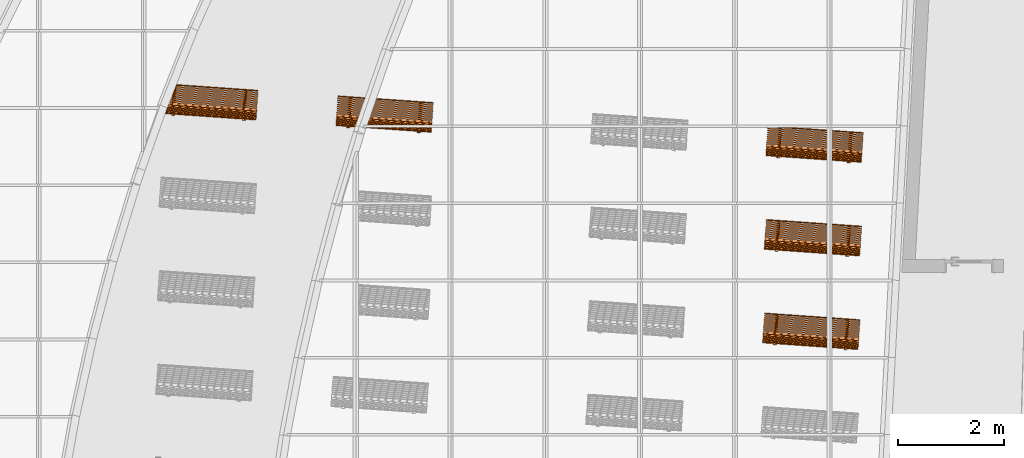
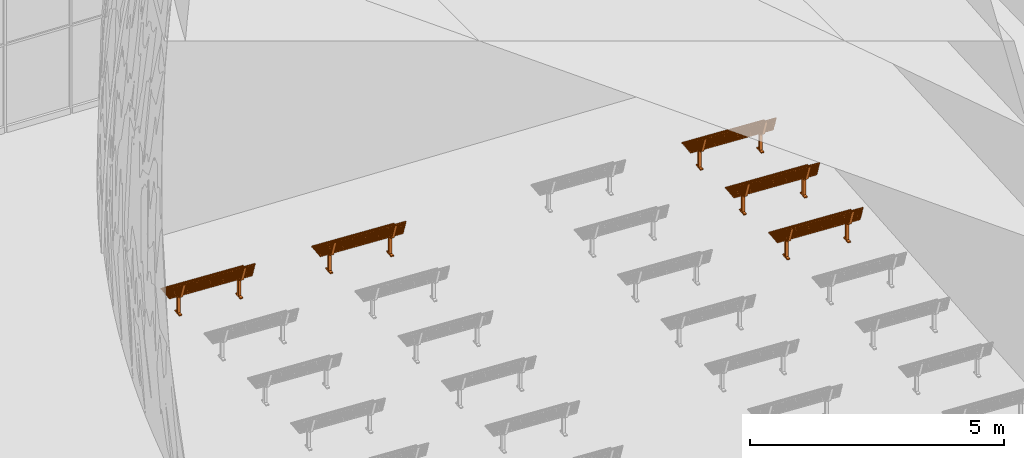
# One storey, part 80 of 82: 5 proxies.
"""IFC2X3 building model written with IfcOpenShell, lengths in millimetres."""

from ifc_helpers import new_model, entity, si_unit, converted_unit, derived_unit, direction, frame, frame_2d, origin, origin_2d_with_axis, place, context, subcontext, project, spatial, polyline, circle_curve, parameter, trimmed, segment, composite_curve, rectangle, outline, extrude, source, transform, mapped, material, material_list, element, save


model = new_model("IFC2X3")

# Units and contexts
model_context = context("Model", 3, precision=0.01, world=origin(), true_north=direction((6.12303176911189e-17, 1.0)))
body_context = subcontext(model_context, "Body", "Model", "MODEL_VIEW")
ifc_project = project(units=[si_unit("LENGTHUNIT", "METRE", prefix="MILLI"), si_unit("AREAUNIT", "SQUARE_METRE"), si_unit("VOLUMEUNIT", "CUBIC_METRE"), converted_unit("PLANEANGLEUNIT", "DEGREE", entity("IfcRatioMeasure", 0.0174532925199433), si_unit("PLANEANGLEUNIT", "RADIAN"), dimensions=[0, 0, 0, 0, 0, 0, 0]), si_unit("MASSUNIT", "GRAM", prefix="KILO"), derived_unit("MASSDENSITYUNIT", [(si_unit("MASSUNIT", "GRAM", prefix="KILO"), 1), (si_unit("LENGTHUNIT", "METRE"), -3)]), si_unit("TIMEUNIT", "SECOND"), si_unit("FREQUENCYUNIT", "HERTZ"), si_unit("THERMODYNAMICTEMPERATUREUNIT", "DEGREE_CELSIUS"), derived_unit("THERMALTRANSMITTANCEUNIT", [(si_unit("MASSUNIT", "GRAM", prefix="KILO"), 1), (si_unit("THERMODYNAMICTEMPERATUREUNIT", "KELVIN"), -1), (si_unit("TIMEUNIT", "SECOND"), -3)]), derived_unit("VOLUMETRICFLOWRATEUNIT", [(si_unit("LENGTHUNIT", "METRE"), 3), (si_unit("TIMEUNIT", "SECOND"), -1)]), si_unit("ELECTRICCURRENTUNIT", "AMPERE"), si_unit("ELECTRICVOLTAGEUNIT", "VOLT"), si_unit("POWERUNIT", "WATT"), si_unit("FORCEUNIT", "NEWTON", prefix="KILO"), si_unit("ILLUMINANCEUNIT", "LUX"), si_unit("LUMINOUSFLUXUNIT", "LUMEN"), si_unit("LUMINOUSINTENSITYUNIT", "CANDELA"), derived_unit("USERDEFINED", [(si_unit("MASSUNIT", "GRAM", prefix="KILO"), -1), (si_unit("LENGTHUNIT", "METRE"), -2), (si_unit("TIMEUNIT", "SECOND"), 3), (si_unit("LUMINOUSFLUXUNIT", "LUMEN"), 1)]), derived_unit("LINEARVELOCITYUNIT", [(si_unit("LENGTHUNIT", "METRE"), 1), (si_unit("TIMEUNIT", "SECOND"), -1)]), si_unit("PRESSUREUNIT", "PASCAL"), derived_unit("USERDEFINED", [(si_unit("LENGTHUNIT", "METRE"), -2), (si_unit("MASSUNIT", "GRAM", prefix="KILO"), 1), (si_unit("TIMEUNIT", "SECOND"), -2)])], contexts=[model_context])

# Site, building, storey
site_placement = place(None, origin())
site = spatial("IfcSite", under=ifc_project, at=site_placement, Name="表面", CompositionType="ELEMENT")
building_placement = place(site_placement, origin())
building = spatial("IfcBuilding", under=site, at=building_placement, CompositionType="ELEMENT")
storey_placement = place(building_placement, origin())
storey = spatial("IfcBuildingStorey", under=building, at=storey_placement, Name="1F", CompositionType="ELEMENT", Elevation=0.0)

# Proxies
ifc_material_1 = material(Name="木质 - 柚木")
ifc_material_2 = material(Name="金属 - 油漆面层 - 深灰色，粗面")
ifc_material_list_1 = material_list([ifc_material_1, ifc_material_2])
shared_shape_1 = source(origin(), body_context, "Body", "SweptSolid", [
    extrude(outline(composite_curve([segment(polyline([(0.797293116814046, -5.21607142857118), (12.0635827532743, -5.21607142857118)]), True, "CONTINUOUS"), segment(polyline([(12.0635827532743, -5.21607142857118), (12.0635827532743, 20.1839285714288)]), True, "CONTINUOUS"), segment(polyline([(12.0635827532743, 20.1839285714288), (0.951082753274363, 20.1839285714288)]), True, "CONTINUOUS"), segment(trimmed(circle_curve(frame_2d((0.951082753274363, 5.89642857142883), x_axis=(1.0, 0.0)), 14.2875), [parameter(89.9999999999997)], [parameter(179.999999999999)], True, "PARAMETER"), True, "CONTINUOUS"), segment(polyline([(-13.3364172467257, 5.89642857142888), (-13.3364172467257, -17.9160714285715)]), True, "CONTINUOUS"), segment(polyline([(-13.3364172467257, -17.9160714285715), (0.797293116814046, -17.9160714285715)]), True, "CONTINUOUS"), segment(polyline([(0.797293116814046, -17.9160714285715), (0.797293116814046, -5.21607142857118)]), True, "CONTINUOUS")], self_intersect=False)), frame((-900.0, -305.597293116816, 462.416071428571), z_axis=(1.0, 0.0, 0.0), x_axis=(0.0, 1.0, 0.0)), (0.0, 0.0, 1.0), 1800.0),
    extrude(outline(composite_curve([segment(polyline([(-12.6999999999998, -17.78), (0.0, -17.78)]), True, "CONTINUOUS"), segment(trimmed(circle_curve(frame_2d((0.0, -5.07999999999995), x_axis=(-0.939692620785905, -0.342020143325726)), 12.7), [parameter(69.9999999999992)], [parameter(160.0)], True, "PARAMETER"), True, "CONTINUOUS"), segment(polyline([(12.7, -5.07999999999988), (12.6999999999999, 20.3200000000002)]), True, "CONTINUOUS"), segment(polyline([(12.6999999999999, 20.3200000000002), (-12.7000000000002, 20.3200000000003)]), True, "CONTINUOUS"), segment(polyline([(-12.7000000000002, 20.3200000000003), (-12.6999999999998, -17.78)]), True, "CONTINUOUS")], self_intersect=False)), frame((-900.0, 231.374580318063, 850.885044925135), z_axis=(1.0, 0.0, 0.0), x_axis=(0.0, -0.939692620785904, 0.342020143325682)), (0.0, 0.0, 1.0), 1800.0),
    extrude(rectangle(XDim=1800.0, YDim=25.4, at=frame_2d((0.0, 1.68753899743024e-14), x_axis=(1.0, 0.0))), frame((0.0, -268.133710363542, 457.2), z_axis=(0.0, 0.0, 1.0), x_axis=(-1.0, 0.0, 0.0)), (0.0, 0.0, 1.0), 25.4),
    extrude(rectangle(XDim=1800.0, YDim=25.4, at=frame_2d((0.0, 1.68753899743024e-14), x_axis=(1.0, 0.0))), frame((0.0, -230.033710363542, 457.2), z_axis=(0.0, 0.0, 1.0), x_axis=(-1.0, 0.0, 0.0)), (0.0, 0.0, 1.0), 25.4),
    extrude(rectangle(XDim=1800.0, YDim=25.4, at=frame_2d((0.0, 1.68753899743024e-14), x_axis=(1.0, 0.0))), frame((0.0, -191.933710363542, 457.2), z_axis=(0.0, 0.0, 1.0), x_axis=(-1.0, 0.0, 0.0)), (0.0, 0.0, 1.0), 25.4),
    extrude(rectangle(XDim=1800.0, YDim=25.4, at=frame_2d((0.0, 1.68753899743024e-14), x_axis=(1.0, 0.0))), frame((0.0, -153.833710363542, 457.2), z_axis=(0.0, 0.0, 1.0), x_axis=(-1.0, 0.0, 0.0)), (0.0, 0.0, 1.0), 25.4),
    extrude(rectangle(XDim=1800.0, YDim=25.4, at=frame_2d((0.0, 1.68753899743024e-14), x_axis=(1.0, 0.0))), frame((0.0, -115.733710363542, 457.2), z_axis=(0.0, 0.0, 1.0), x_axis=(-1.0, 0.0, 0.0)), (0.0, 0.0, 1.0), 25.4),
    extrude(rectangle(XDim=1800.0, YDim=25.4, at=origin_2d_with_axis()), frame((0.0, -77.6337103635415, 457.2), z_axis=(0.0, 0.0, 1.0), x_axis=(-1.0, 0.0, 0.0)), (0.0, 0.0, 1.0), 25.4),
    extrude(rectangle(XDim=1800.0, YDim=25.4, at=origin_2d_with_axis()), frame((0.0, -39.5337103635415, 457.2), z_axis=(0.0, 0.0, 1.0), x_axis=(-1.0, 0.0, 0.0)), (0.0, 0.0, 1.0), 25.4),
    extrude(rectangle(XDim=1800.0, YDim=25.4, at=origin_2d_with_axis()), frame((0.0, -1.43371036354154, 457.2), z_axis=(0.0, 0.0, 1.0), x_axis=(-1.0, 0.0, 0.0)), (0.0, 0.0, 1.0), 25.4),
    extrude(rectangle(XDim=1800.0, YDim=25.4, at=origin_2d_with_axis()), frame((0.0, 36.6662896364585, 457.2), z_axis=(0.0, 0.0, 1.0), x_axis=(-1.0, 0.0, 0.0)), (0.0, 0.0, 1.0), 25.4),
    extrude(rectangle(XDim=25.4, YDim=25.4, at=frame_2d((3.10862446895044e-14, -1.33226762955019e-13), x_axis=(0.0, 1.0))), frame((-900.0, 137.551614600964, 593.108565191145), z_axis=(1.0, 0.0, 0.0), x_axis=(0.0, -0.939692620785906, 0.342020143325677)), (0.0, 0.0, 1.0), 1800.0),
    extrude(rectangle(XDim=25.4, YDim=25.4000000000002, at=frame_2d((-8.61533067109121e-14, 4.08562073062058e-14), x_axis=(0.0, 1.0))), frame((-900.0, 150.582582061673, 628.910854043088), z_axis=(1.0, 0.0, 0.0), x_axis=(0.0, -0.939692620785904, 0.342020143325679)), (0.0, 0.0, 1.0), 1800.0),
    extrude(rectangle(XDim=25.4000000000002, YDim=25.4, at=frame_2d((-3.19744231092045e-14, -1.15463194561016e-14), x_axis=(0.0, 1.0))), frame((-900.0, 111.489679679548, 521.503987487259), z_axis=(1.0, 0.0, 0.0), x_axis=(0.0, -0.939692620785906, 0.342020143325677)), (0.0, 0.0, 1.0), 1800.0),
    extrude(rectangle(XDim=25.4, YDim=25.3999999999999, at=frame_2d((0.0, 0.0), x_axis=(0.0, 1.0))), frame((-900.0, 124.520647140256, 557.306276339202), z_axis=(1.0, 0.0, 0.0), x_axis=(0.0, -0.939692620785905, 0.342020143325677)), (0.0, 0.0, 1.0), 1800.0),
    extrude(rectangle(XDim=25.3999999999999, YDim=25.4, at=frame_2d((-3.10862446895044e-14, -1.06581410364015e-14), x_axis=(0.0, 1.0))), frame((-900.0, 189.675484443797, 736.317720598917), z_axis=(1.0, 0.0, 0.0), x_axis=(0.0, -0.939692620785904, 0.342020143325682)), (0.0, 0.0, 1.0), 1800.0),
    extrude(rectangle(XDim=25.3999999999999, YDim=25.4000000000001, at=frame_2d((-3.10862446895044e-14, -1.33226762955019e-14), x_axis=(0.0, 1.0))), frame((-900.0, 202.706451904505, 772.12000945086), z_axis=(1.0, 0.0, 0.0), x_axis=(0.0, -0.939692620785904, 0.34202014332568)), (0.0, 0.0, 1.0), 1800.0),
    extrude(rectangle(XDim=25.4, YDim=25.3999999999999, at=frame_2d((0.0, 0.0), x_axis=(0.0, 1.0))), frame((-900.0, 163.613549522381, 664.713142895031), z_axis=(1.0, 0.0, 0.0), x_axis=(0.0, -0.939692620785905, 0.342020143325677)), (0.0, 0.0, 1.0), 1800.0),
    extrude(rectangle(XDim=25.4, YDim=25.4, at=frame_2d((-7.99360577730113e-15, -7.63833440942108e-14), x_axis=(0.0, 1.0))), frame((-900.0, 176.644516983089, 700.515431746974), z_axis=(1.0, 0.0, 0.0), x_axis=(0.0, -0.939692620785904, 0.342020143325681)), (0.0, 0.0, 1.0), 1800.0),
    extrude(rectangle(XDim=25.4, YDim=25.3999999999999, at=frame_2d((3.19744231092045e-14, 1.06581410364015e-14), x_axis=(0.0, 1.0))), frame((-900.0, 215.737419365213, 807.922298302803), z_axis=(1.0, 0.0, 0.0), x_axis=(0.0, -0.939692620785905, 0.342020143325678)), (0.0, 0.0, 1.0), 1800.0),
    extrude(rectangle(XDim=25.4000000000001, YDim=25.3999999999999, at=frame_2d((-1.33226762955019e-14, -9.76996261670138e-15), x_axis=(0.0, 1.0))), frame((-900.0, 96.4732295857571, 493.845543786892), z_axis=(1.0, 0.0, 0.0), x_axis=(0.0, -0.81915204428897, 0.573576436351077)), (0.0, 0.0, 1.0), 1800.0),
    extrude(rectangle(XDim=25.4, YDim=25.4000000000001, at=frame_2d((4.44089209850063e-15, 1.68753899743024e-14), x_axis=(1.0, 0.0))), frame((-900.0, 68.061957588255, 472.784050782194), z_axis=(1.0, 0.0, 0.0), x_axis=(0.0, -0.258819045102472, 0.965925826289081)), (0.0, 0.0, 1.0), 1800.0),
    extrude(outline(composite_curve([segment(polyline([(344.97581690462, -133.451056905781), (370.37581690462, -133.451056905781)]), True, "CONTINUOUS"), segment(polyline([(370.37581690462, -133.451056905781), (370.37581690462, 69.7489430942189)]), True, "CONTINUOUS"), segment(polyline([(370.37581690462, 69.7489430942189), (344.97581690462, 69.7489430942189)]), True, "CONTINUOUS"), segment(polyline([(344.97581690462, 69.7489430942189), (344.97581690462, -6.45105690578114)]), True, "CONTINUOUS"), segment(polyline([(344.97581690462, -6.45105690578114), (-61.4241830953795, -6.45105690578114)]), True, "CONTINUOUS"), segment(polyline([(-61.4241830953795, -6.45105690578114), (-61.4241830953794, 25.2857644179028)]), True, "CONTINUOUS"), segment(trimmed(circle_curve(frame_2d((-150.324183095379, 25.2857644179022), x_axis=(0.0, 1.0)), 88.8999999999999), [parameter(270.0)], [parameter(340.0)], True, "PARAMETER"), True, "CONTINUOUS"), segment(polyline([(-119.918592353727, 108.824438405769), (-483.896145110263, 241.301433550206)]), True, "CONTINUOUS"), segment(polyline([(-483.896145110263, 241.301433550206), (-488.239800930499, 229.367337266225)]), True, "CONTINUOUS"), segment(trimmed(circle_curve(frame_2d((-476.305704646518, 225.023681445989), x_axis=(0.0, 1.0)), 12.7), [parameter(69.9999999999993)], [parameter(160.0)], True, "PARAMETER"), True, "CONTINUOUS"), segment(polyline([(-480.649360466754, 213.089585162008), (-128.6059039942, 84.9562458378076)]), True, "CONTINUOUS"), segment(trimmed(circle_curve(frame_2d((-150.32418309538, 25.2857644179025), x_axis=(0.0, 1.0)), 63.5), [parameter(270.0)], [parameter(340.0)], True, "PARAMETER"), False, "CONTINUOUS"), segment(polyline([(-86.8241830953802, 25.2857644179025), (-86.8241830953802, -336.651056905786)]), True, "CONTINUOUS"), segment(polyline([(-86.8241830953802, -336.651056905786), (-61.4241830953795, -336.651056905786)]), True, "CONTINUOUS"), segment(polyline([(-61.4241830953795, -336.651056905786), (-61.4241830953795, -57.2510569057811)]), True, "CONTINUOUS"), segment(polyline([(-61.4241830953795, -57.2510569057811), (344.97581690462, -57.2510569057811)]), True, "CONTINUOUS"), segment(polyline([(344.97581690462, -57.2510569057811), (344.97581690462, -133.451056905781)]), True, "CONTINUOUS")], self_intersect=False)), frame((633.973659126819, 31.8510569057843, 370.37581690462), z_axis=(1.0, 0.0, 0.0), x_axis=(0.0, 0.0, -1.0)), (0.0, 0.0, 1.0), 62.8263408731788),
    extrude(outline(composite_curve([segment(polyline([(344.97581690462, -133.451056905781), (370.37581690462, -133.451056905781)]), True, "CONTINUOUS"), segment(polyline([(370.37581690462, -133.451056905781), (370.37581690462, 69.7489430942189)]), True, "CONTINUOUS"), segment(polyline([(370.37581690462, 69.7489430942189), (344.97581690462, 69.7489430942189)]), True, "CONTINUOUS"), segment(polyline([(344.97581690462, 69.7489430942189), (344.97581690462, -6.45105690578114)]), True, "CONTINUOUS"), segment(polyline([(344.97581690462, -6.45105690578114), (-61.4241830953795, -6.45105690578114)]), True, "CONTINUOUS"), segment(polyline([(-61.4241830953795, -6.45105690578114), (-61.4241830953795, 25.2857644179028)]), True, "CONTINUOUS"), segment(trimmed(circle_curve(frame_2d((-150.32418309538, 25.2857644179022), x_axis=(0.0, 1.0)), 88.9), [parameter(270.0)], [parameter(340.0)], True, "PARAMETER"), True, "CONTINUOUS"), segment(polyline([(-119.918592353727, 108.824438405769), (-483.896145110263, 241.301433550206)]), True, "CONTINUOUS"), segment(polyline([(-483.896145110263, 241.301433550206), (-488.239800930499, 229.367337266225)]), True, "CONTINUOUS"), segment(trimmed(circle_curve(frame_2d((-476.305704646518, 225.023681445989), x_axis=(0.0, 1.0)), 12.7), [parameter(69.9999999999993)], [parameter(160.0)], True, "PARAMETER"), True, "CONTINUOUS"), segment(polyline([(-480.649360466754, 213.089585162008), (-128.6059039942, 84.9562458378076)]), True, "CONTINUOUS"), segment(trimmed(circle_curve(frame_2d((-150.32418309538, 25.2857644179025), x_axis=(0.0, 1.0)), 63.5), [parameter(270.0)], [parameter(340.0)], True, "PARAMETER"), False, "CONTINUOUS"), segment(polyline([(-86.8241830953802, 25.2857644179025), (-86.8241830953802, -336.651056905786)]), True, "CONTINUOUS"), segment(polyline([(-86.8241830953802, -336.651056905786), (-61.4241830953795, -336.651056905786)]), True, "CONTINUOUS"), segment(polyline([(-61.4241830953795, -336.651056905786), (-61.4241830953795, -57.2510569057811)]), True, "CONTINUOUS"), segment(polyline([(-61.4241830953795, -57.2510569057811), (344.97581690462, -57.2510569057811)]), True, "CONTINUOUS"), segment(polyline([(344.97581690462, -57.2510569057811), (344.97581690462, -133.451056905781)]), True, "CONTINUOUS")], self_intersect=False)), frame((-696.799999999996, 31.8510569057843, 370.37581690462), z_axis=(1.0, 0.0, 0.0), x_axis=(0.0, 0.0, -1.0)), (0.0, 0.0, 1.0), 63.8916859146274),
])
proxy_1_placement = place(storey_placement, frame((-20204.3999341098, -5061.50373373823, 0.0), z_axis=(0.0, 0.0, 1.0), x_axis=(-0.997564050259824, 0.0697564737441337, 0.0)))
element("IfcBuildingElementProxy", 1, at=proxy_1_placement, inside=storey, material=ifc_material_list_1, Name="长椅:1800 mm", ObjectType="1800 mm", context=body_context, shape_type="MappedRepresentation", body=[
    mapped(shared_shape_1, transform((0.0, 0.0, 0.0), scale=1.0)),
])
ifc_material_list_2 = material_list([ifc_material_1, ifc_material_2])
proxy_2_placement = place(storey_placement, frame((-20235.0888991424, -6819.6733629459, 0.0), z_axis=(0.0, 0.0, 1.0), x_axis=(-0.997564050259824, 0.0697564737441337, 0.0)))
element("IfcBuildingElementProxy", 2, at=proxy_2_placement, inside=storey, material=ifc_material_list_2, Name="长椅:1800 mm", ObjectType="1800 mm", context=body_context, shape_type="MappedRepresentation", body=[
    mapped(shared_shape_1, transform((0.0, 0.0, 0.0), scale=1.0)),
])
ifc_material_list_3 = material_list([ifc_material_1, ifc_material_2])
proxy_3_placement = place(storey_placement, frame((-20265.7778641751, -8577.84299215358, 0.0), z_axis=(0.0, 0.0, 1.0), x_axis=(-0.997564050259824, 0.0697564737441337, 0.0)))
element("IfcBuildingElementProxy", 3, at=proxy_3_placement, inside=storey, material=ifc_material_list_3, Name="长椅:1800 mm", ObjectType="1800 mm", context=body_context, shape_type="MappedRepresentation", body=[
    mapped(shared_shape_1, transform((0.0, 0.0, 0.0), scale=1.0)),
])
ifc_material_list_4 = material_list([ifc_material_1, ifc_material_2])
shared_shape_2 = source(origin(), body_context, "Body", "SweptSolid", [
    extrude(outline(composite_curve([segment(polyline([(5.21607142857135, -0.797293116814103), (17.9160714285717, -0.797293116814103)]), True, "CONTINUOUS"), segment(polyline([(17.9160714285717, -0.797293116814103), (17.9160714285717, 13.3364172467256)]), True, "CONTINUOUS"), segment(polyline([(17.9160714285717, 13.3364172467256), (-5.89642857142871, 13.3364172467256)]), True, "CONTINUOUS"), segment(trimmed(circle_curve(frame_2d((-5.89642857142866, -0.95108275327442), x_axis=(0.0, -1.0)), 14.2875), [parameter(180.000000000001)], [parameter(270.0)], True, "PARAMETER"), True, "CONTINUOUS"), segment(polyline([(-20.1839285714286, -0.95108275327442), (-20.1839285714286, -12.0635827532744)]), True, "CONTINUOUS"), segment(polyline([(-20.1839285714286, -12.0635827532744), (5.21607142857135, -12.0635827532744)]), True, "CONTINUOUS"), segment(polyline([(5.21607142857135, -12.0635827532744), (5.21607142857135, -0.797293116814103)]), True, "CONTINUOUS")], self_intersect=False)), frame((-900.0, 305.597293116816, 462.416071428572), z_axis=(1.0, 0.0, 0.0), x_axis=(0.0, 0.0, -1.0)), (0.0, 0.0, 1.0), 1800.0),
    extrude(outline(composite_curve([segment(polyline([(-17.7799999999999, -12.6999999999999), (20.3200000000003, -12.6999999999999)]), True, "CONTINUOUS"), segment(polyline([(20.3200000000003, -12.6999999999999), (20.3199999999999, 12.7000000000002)]), True, "CONTINUOUS"), segment(polyline([(20.3199999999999, 12.7000000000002), (-5.08000000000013, 12.7)]), True, "CONTINUOUS"), segment(trimmed(circle_curve(frame_2d((-5.08000000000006, 0.0), x_axis=(-0.342020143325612, -0.939692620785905)), 12.7), [parameter(200.0)], [parameter(290.000000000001)], True, "PARAMETER"), True, "CONTINUOUS"), segment(polyline([(-17.7800000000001, 0.0), (-17.7799999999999, -12.6999999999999)]), True, "CONTINUOUS")], self_intersect=False)), frame((-900.0, -231.374580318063, 850.885044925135), z_axis=(1.0, 0.0, 0.0), x_axis=(0.0, 0.342020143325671, -0.939692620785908)), (0.0, 0.0, 1.0), 1800.0),
    extrude(rectangle(XDim=25.4, YDim=1800.0, at=frame_2d((-1.68753899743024e-14, 0.0), x_axis=(1.0, 0.0))), frame((0.0, 268.133710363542, 457.2), z_axis=(0.0, 0.0, 1.0), x_axis=(0.0, 1.0, 0.0)), (0.0, 0.0, 1.0), 25.4),
    extrude(rectangle(XDim=25.4, YDim=1800.0, at=frame_2d((-1.68753899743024e-14, 0.0), x_axis=(1.0, 0.0))), frame((0.0, 230.033710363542, 457.2), z_axis=(0.0, 0.0, 1.0), x_axis=(0.0, 1.0, 0.0)), (0.0, 0.0, 1.0), 25.4),
    extrude(rectangle(XDim=25.4, YDim=1800.0, at=frame_2d((-1.68753899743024e-14, 0.0), x_axis=(1.0, 0.0))), frame((0.0, 191.933710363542, 457.2), z_axis=(0.0, 0.0, 1.0), x_axis=(0.0, 1.0, 0.0)), (0.0, 0.0, 1.0), 25.4),
    extrude(rectangle(XDim=25.4, YDim=1800.0, at=frame_2d((-1.68753899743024e-14, 0.0), x_axis=(1.0, 0.0))), frame((0.0, 153.833710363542, 457.2), z_axis=(0.0, 0.0, 1.0), x_axis=(0.0, 1.0, 0.0)), (0.0, 0.0, 1.0), 25.4),
    extrude(rectangle(XDim=25.4, YDim=1800.0, at=origin_2d_with_axis()), frame((0.0, 115.733710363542, 457.2), z_axis=(0.0, 0.0, 1.0), x_axis=(0.0, 1.0, 0.0)), (0.0, 0.0, 1.0), 25.4),
    extrude(rectangle(XDim=25.4, YDim=1800.0, at=origin_2d_with_axis()), frame((0.0, 77.6337103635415, 457.2), z_axis=(0.0, 0.0, 1.0), x_axis=(0.0, 1.0, 0.0)), (0.0, 0.0, 1.0), 25.4),
    extrude(rectangle(XDim=25.4, YDim=1800.0, at=origin_2d_with_axis()), frame((0.0, 39.5337103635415, 457.2), z_axis=(0.0, 0.0, 1.0), x_axis=(0.0, 1.0, 0.0)), (0.0, 0.0, 1.0), 25.4),
    extrude(rectangle(XDim=25.4, YDim=1800.0, at=origin_2d_with_axis()), frame((0.0, 1.43371036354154, 457.2), z_axis=(0.0, 0.0, 1.0), x_axis=(0.0, 1.0, 0.0)), (0.0, 0.0, 1.0), 25.4),
    extrude(rectangle(XDim=25.4, YDim=1800.0, at=origin_2d_with_axis()), frame((0.0, -36.6662896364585, 457.2), z_axis=(0.0, 0.0, 1.0), x_axis=(0.0, 1.0, 0.0)), (0.0, 0.0, 1.0), 25.4),
    extrude(rectangle(XDim=25.4, YDim=25.4, at=frame_2d((-1.33226762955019e-13, 3.01980662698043e-14), x_axis=(1.0, 0.0))), frame((-900.0, -137.551614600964, 593.108565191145), z_axis=(1.0, 0.0, 0.0), x_axis=(0.0, 0.342020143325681, -0.939692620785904)), (0.0, 0.0, 1.0), 1800.0),
    extrude(rectangle(XDim=25.4, YDim=25.4000000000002, at=frame_2d((3.99680288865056e-14, -8.61533067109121e-14), x_axis=(1.0, 0.0))), frame((-900.0, -150.582582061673, 628.910854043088), z_axis=(1.0, 0.0, 0.0), x_axis=(0.0, 0.342020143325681, -0.939692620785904)), (0.0, 0.0, 1.0), 1800.0),
    extrude(rectangle(XDim=25.4000000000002, YDim=25.4, at=frame_2d((-1.06581410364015e-14, -3.19744231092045e-14), x_axis=(1.0, 0.0))), frame((-900.0, -111.489679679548, 521.503987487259), z_axis=(1.0, 0.0, 0.0), x_axis=(0.0, 0.342020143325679, -0.939692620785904)), (0.0, 0.0, 1.0), 1800.0),
    extrude(rectangle(XDim=25.4, YDim=25.3999999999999, at=origin_2d_with_axis()), frame((-900.0, -124.520647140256, 557.306276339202), z_axis=(1.0, 0.0, 0.0), x_axis=(0.0, 0.342020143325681, -0.939692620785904)), (0.0, 0.0, 1.0), 1800.0),
    extrude(rectangle(XDim=25.3999999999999, YDim=25.4, at=frame_2d((-1.06581410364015e-14, -3.10862446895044e-14), x_axis=(1.0, 0.0))), frame((-900.0, -189.675484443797, 736.317720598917), z_axis=(1.0, 0.0, 0.0), x_axis=(0.0, 0.342020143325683, -0.939692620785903)), (0.0, 0.0, 1.0), 1800.0),
    extrude(rectangle(XDim=25.3999999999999, YDim=25.4000000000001, at=frame_2d((-1.33226762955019e-14, -3.19744231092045e-14), x_axis=(1.0, 0.0))), frame((-900.0, -202.706451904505, 772.12000945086), z_axis=(1.0, 0.0, 0.0), x_axis=(0.0, 0.342020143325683, -0.939692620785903)), (0.0, 0.0, 1.0), 1800.0),
    extrude(rectangle(XDim=25.4, YDim=25.3999999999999, at=origin_2d_with_axis()), frame((-900.0, -163.613549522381, 664.713142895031), z_axis=(1.0, 0.0, 0.0), x_axis=(0.0, 0.342020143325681, -0.939692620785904)), (0.0, 0.0, 1.0), 1800.0),
    extrude(rectangle(XDim=25.4, YDim=25.4, at=frame_2d((5.15143483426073e-14, -5.32907051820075e-14), x_axis=(1.0, 0.0))), frame((-900.0, -176.644516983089, 700.515431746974), z_axis=(1.0, 0.0, 0.0), x_axis=(0.0, 0.342020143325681, -0.939692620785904)), (0.0, 0.0, 1.0), 1800.0),
    extrude(rectangle(XDim=25.4, YDim=25.3999999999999, at=frame_2d((1.24344978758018e-14, 3.19744231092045e-14), x_axis=(1.0, 0.0))), frame((-900.0, -215.737419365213, 807.922298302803), z_axis=(1.0, 0.0, 0.0), x_axis=(0.0, 0.342020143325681, -0.939692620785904)), (0.0, 0.0, 1.0), 1800.0),
    extrude(rectangle(XDim=25.4000000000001, YDim=25.3999999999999, at=frame_2d((-9.76996261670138e-15, -1.4210854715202e-14), x_axis=(1.0, 0.0))), frame((-900.0, -96.4732295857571, 493.845543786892), z_axis=(1.0, 0.0, 0.0), x_axis=(0.0, 0.573576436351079, -0.819152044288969)), (0.0, 0.0, 1.0), 1800.0),
    extrude(rectangle(XDim=25.4, YDim=25.4000000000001, at=frame_2d((5.24025267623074e-14, -1.25233157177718e-13), x_axis=(0.0, 1.0))), frame((-900.0, -68.061957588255, 472.784050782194), z_axis=(1.0, 0.0, 0.0), x_axis=(0.0, 0.965925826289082, -0.258819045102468)), (0.0, 0.0, 1.0), 1800.0),
    extrude(outline(composite_curve([segment(polyline([(-133.451056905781, -344.97581690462), (-133.451056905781, -370.37581690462)]), True, "CONTINUOUS"), segment(polyline([(-133.451056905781, -370.37581690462), (69.7489430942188, -370.37581690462)]), True, "CONTINUOUS"), segment(polyline([(69.7489430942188, -370.37581690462), (69.7489430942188, -344.97581690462)]), True, "CONTINUOUS"), segment(polyline([(69.7489430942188, -344.97581690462), (-6.45105690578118, -344.97581690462)]), True, "CONTINUOUS"), segment(polyline([(-6.45105690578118, -344.97581690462), (-6.45105690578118, 61.4241830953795)]), True, "CONTINUOUS"), segment(polyline([(-6.45105690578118, 61.4241830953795), (25.2857644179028, 61.4241830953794)]), True, "CONTINUOUS"), segment(trimmed(circle_curve(frame_2d((25.2857644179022, 150.324183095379), x_axis=(1.0, 0.0)), 88.8999999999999), [parameter(270.0)], [parameter(340.0)], True, "PARAMETER"), True, "CONTINUOUS"), segment(polyline([(108.824438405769, 119.918592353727), (241.301433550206, 483.896145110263)]), True, "CONTINUOUS"), segment(polyline([(241.301433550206, 483.896145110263), (229.367337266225, 488.239800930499)]), True, "CONTINUOUS"), segment(trimmed(circle_curve(frame_2d((225.023681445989, 476.305704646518), x_axis=(1.0, 0.0)), 12.7), [parameter(69.9999999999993)], [parameter(160.0)], True, "PARAMETER"), True, "CONTINUOUS"), segment(polyline([(213.089585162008, 480.649360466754), (84.9562458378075, 128.6059039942)]), True, "CONTINUOUS"), segment(trimmed(circle_curve(frame_2d((25.2857644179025, 150.32418309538), x_axis=(1.0, 0.0)), 63.5), [parameter(270.0)], [parameter(340.0)], True, "PARAMETER"), False, "CONTINUOUS"), segment(polyline([(25.2857644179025, 86.8241830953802), (-336.651056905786, 86.8241830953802)]), True, "CONTINUOUS"), segment(polyline([(-336.651056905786, 86.8241830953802), (-336.651056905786, 61.4241830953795)]), True, "CONTINUOUS"), segment(polyline([(-336.651056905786, 61.4241830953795), (-57.2510569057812, 61.4241830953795)]), True, "CONTINUOUS"), segment(polyline([(-57.2510569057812, 61.4241830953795), (-57.2510569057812, -344.97581690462)]), True, "CONTINUOUS"), segment(polyline([(-57.2510569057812, -344.97581690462), (-133.451056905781, -344.97581690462)]), True, "CONTINUOUS")], self_intersect=False)), frame((633.973659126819, -31.8510569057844, 370.37581690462), z_axis=(-1.0, 0.0, 0.0), x_axis=(0.0, -1.0, 0.0)), (0.0, 0.0, -1.0), 62.8263408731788),
    extrude(outline(composite_curve([segment(polyline([(-133.451056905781, -344.97581690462), (-133.451056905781, -370.37581690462)]), True, "CONTINUOUS"), segment(polyline([(-133.451056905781, -370.37581690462), (69.7489430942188, -370.37581690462)]), True, "CONTINUOUS"), segment(polyline([(69.7489430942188, -370.37581690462), (69.7489430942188, -344.97581690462)]), True, "CONTINUOUS"), segment(polyline([(69.7489430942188, -344.97581690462), (-6.45105690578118, -344.97581690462)]), True, "CONTINUOUS"), segment(polyline([(-6.45105690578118, -344.97581690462), (-6.45105690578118, 61.4241830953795)]), True, "CONTINUOUS"), segment(polyline([(-6.45105690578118, 61.4241830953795), (25.2857644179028, 61.4241830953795)]), True, "CONTINUOUS"), segment(trimmed(circle_curve(frame_2d((25.2857644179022, 150.32418309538), x_axis=(1.0, 0.0)), 88.9), [parameter(270.0)], [parameter(340.0)], True, "PARAMETER"), True, "CONTINUOUS"), segment(polyline([(108.824438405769, 119.918592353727), (241.301433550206, 483.896145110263)]), True, "CONTINUOUS"), segment(polyline([(241.301433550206, 483.896145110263), (229.367337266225, 488.239800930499)]), True, "CONTINUOUS"), segment(trimmed(circle_curve(frame_2d((225.023681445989, 476.305704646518), x_axis=(1.0, 0.0)), 12.7), [parameter(69.9999999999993)], [parameter(160.0)], True, "PARAMETER"), True, "CONTINUOUS"), segment(polyline([(213.089585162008, 480.649360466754), (84.9562458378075, 128.6059039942)]), True, "CONTINUOUS"), segment(trimmed(circle_curve(frame_2d((25.2857644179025, 150.32418309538), x_axis=(1.0, 0.0)), 63.5), [parameter(270.0)], [parameter(340.0)], True, "PARAMETER"), False, "CONTINUOUS"), segment(polyline([(25.2857644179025, 86.8241830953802), (-336.651056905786, 86.8241830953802)]), True, "CONTINUOUS"), segment(polyline([(-336.651056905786, 86.8241830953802), (-336.651056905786, 61.4241830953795)]), True, "CONTINUOUS"), segment(polyline([(-336.651056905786, 61.4241830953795), (-57.2510569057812, 61.4241830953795)]), True, "CONTINUOUS"), segment(polyline([(-57.2510569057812, 61.4241830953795), (-57.2510569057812, -344.97581690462)]), True, "CONTINUOUS"), segment(polyline([(-57.2510569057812, -344.97581690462), (-133.451056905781, -344.97581690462)]), True, "CONTINUOUS")], self_intersect=False)), frame((-696.799999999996, -31.8510569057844, 370.37581690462), z_axis=(-1.0, 0.0, 0.0), x_axis=(0.0, -1.0, 0.0)), (0.0, 0.0, -1.0), 63.8916859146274),
])
proxy_4_placement = place(storey_placement, frame((-28284.6687412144, -4496.47629641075, 0.0), z_axis=(0.0, 0.0, 1.0), x_axis=(0.997564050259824, -0.0697564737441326, 0.0)))
element("IfcBuildingElementProxy", 4, at=proxy_4_placement, inside=storey, material=ifc_material_list_4, Name="长椅:1800 mm", ObjectType="1800 mm", context=body_context, shape_type="MappedRepresentation", body=[
    mapped(shared_shape_2, transform((0.0, 0.0, 0.0), scale=1.0)),
])
ifc_material_list_5 = material_list([ifc_material_1, ifc_material_2])
proxy_5_placement = place(storey_placement, frame((-31576.6301070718, -4266.27993305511, 0.0), z_axis=(0.0, 0.0, 1.0), x_axis=(0.997564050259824, -0.0697564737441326, 0.0)))
element("IfcBuildingElementProxy", 5, at=proxy_5_placement, inside=storey, material=ifc_material_list_5, Name="长椅:1800 mm", ObjectType="1800 mm", context=body_context, shape_type="MappedRepresentation", body=[
    mapped(shared_shape_2, transform((0.0, 0.0, 0.0), scale=1.0)),
])

save(model, "model.ifc")
